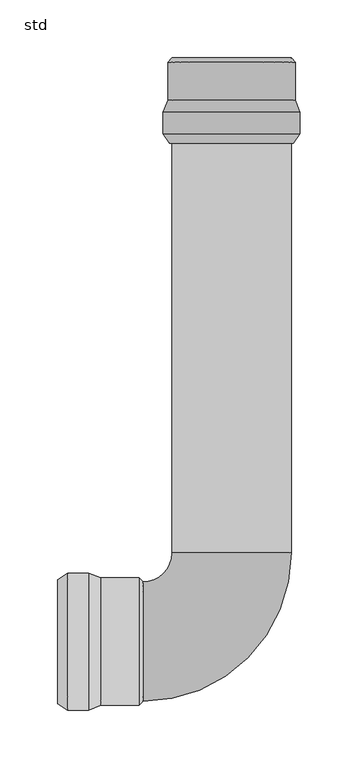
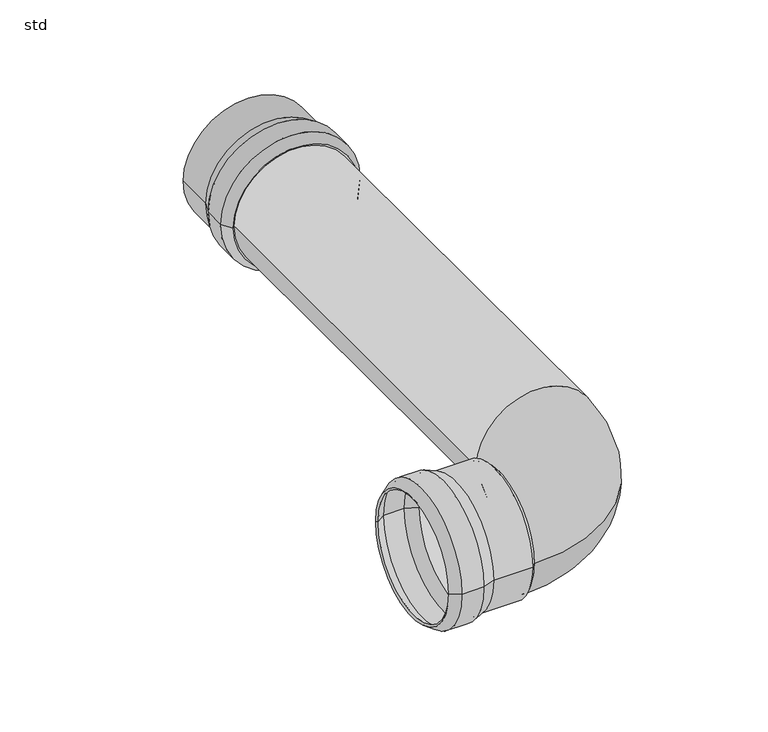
"""IFC4 building model written with IfcOpenShell, lengths in millimetres: pipe fitting geometry, PIF_ST_UN_GM-X optimiserbend 1a push socket_ACO : std."""

from ifc_helpers import new_model, si_unit, point, frame, origin, place, context, project, spatial, polyline, circle_curve, ellipse_curve, trimmed, source, transform, mapped, element, save
from ifc_brep_helpers import plane_surface, cylinder_surface, revolved_surface, advanced_brep


def std_7d5d7c72(model_context):
    return source(origin(), model_context, "Body", "AdvancedBrep", [
        advanced_brep(
        [(-59.0, 456.5, 0.0), (59.0, 456.5, 0.0), (59.0, 438.3, 0.0), (-59.0, 438.3, 0.0), (-55.0, 467.0, 0.0), (55.0, 467.0, 0.0), (53.5, 430.0, 0.0), (-53.5, 430.0, 0.0), (-55.0, 500.0, 0.0), (55.0, 500.0, 0.0), (-51.5, 503.5, 0.0), (51.5, 503.5, 0.0), (-51.5, 500.0, 0.0), (51.5, 500.0, 0.0), (-53.0, 466.6319487, 0.0), (53.0, 466.6319487, 0.0), (53.0, 500.0, 0.0), (-53.0, 500.0, 0.0), (-57.0, 456.1319487, 0.0), (57.0, 456.1319487, 0.0), (-57.0, 438.9025117, 0.0), (57.0, 438.9025117, 0.0), (-51.8328156, 431.1047607, 0.0), (51.8328156, 431.1047607, 0.0)],
        [
            (0, 1, circle_curve(frame((0.0, 456.5, 0.0), z_axis=(0.0, -1.0, 0.0), x_axis=(1.0, 0.0, 0.0)), 59.0)),
            (1, 2),
            (2, 3, circle_curve(frame((0.0, 438.3, 0.0), z_axis=(0.0, 1.0, 0.0), x_axis=(1.0, 0.0, 0.0)), 59.0)),
            (3, 0),
            (1, 0, circle_curve(frame((0.0, 456.5, 0.0), z_axis=(0.0, -1.0, 0.0), x_axis=(1.0, 0.0, 0.0)), 59.0)),
            (3, 2, circle_curve(frame((0.0, 438.3, 0.0), z_axis=(0.0, 1.0, 0.0), x_axis=(1.0, 0.0, 0.0)), 59.0)),
            (4, 5, circle_curve(frame((0.0, 467.0, 0.0), z_axis=(0.0, -1.0, 0.0), x_axis=(1.0, 0.0, 0.0)), 55.0)),
            (5, 1),
            (0, 4),
            (5, 4, circle_curve(frame((0.0, 467.0, 0.0), z_axis=(0.0, -1.0, 0.0), x_axis=(1.0, 0.0, 0.0)), 55.0)),
            (2, 6),
            (6, 7, circle_curve(frame((0.0, 430.0, 0.0), z_axis=(0.0, 1.0, 0.0), x_axis=(1.0, 0.0, 0.0)), 53.5)),
            (7, 3),
            (7, 6, circle_curve(frame((0.0, 430.0, 0.0), z_axis=(0.0, 1.0, 0.0), x_axis=(1.0, 0.0, 0.0)), 53.5)),
            (8, 9, circle_curve(frame((0.0, 500.0, 0.0), z_axis=(0.0, -1.0, 0.0), x_axis=(1.0, 0.0, 0.0)), 55.0)),
            (9, 5),
            (4, 8),
            (9, 8, circle_curve(frame((0.0, 500.0, 0.0), z_axis=(0.0, -1.0, 0.0), x_axis=(1.0, 0.0, 0.0)), 55.0)),
            (10, 11, circle_curve(frame((0.0, 503.5, 0.0), z_axis=(0.0, -1.0, 0.0), x_axis=(1.0, 0.0, 0.0)), 51.5)),
            (11, 9),
            (8, 10),
            (11, 10, circle_curve(frame((0.0, 503.5, 0.0), z_axis=(0.0, -1.0, 0.0), x_axis=(1.0, 0.0, 0.0)), 51.5)),
            (12, 13, circle_curve(frame((0.0, 500.0, 0.0), z_axis=(0.0, -1.0, 0.0), x_axis=(1.0, 0.0, 0.0)), 51.5)),
            (13, 11),
            (10, 12),
            (13, 12, circle_curve(frame((0.0, 500.0, 0.0), z_axis=(0.0, -1.0, 0.0), x_axis=(1.0, 0.0, 0.0)), 51.5)),
            (14, 15, circle_curve(frame((0.0, 466.6319487, 0.0), z_axis=(0.0, -1.0, 0.0), x_axis=(1.0, 0.0, 0.0)), 53.0)),
            (15, 16),
            (16, 17, circle_curve(frame((0.0, 500.0, 0.0), z_axis=(0.0, 1.0, 0.0), x_axis=(1.0, 0.0, 0.0)), 53.0)),
            (17, 14),
            (15, 14, circle_curve(frame((0.0, 466.6319487, 0.0), z_axis=(0.0, -1.0, 0.0), x_axis=(1.0, 0.0, 0.0)), 53.0)),
            (17, 16, circle_curve(frame((0.0, 500.0, 0.0), z_axis=(0.0, 1.0, 0.0), x_axis=(1.0, 0.0, 0.0)), 53.0)),
            (18, 19, circle_curve(frame((0.0, 456.1319487, 0.0), z_axis=(0.0, -1.0, 0.0), x_axis=(1.0, 0.0, 0.0)), 57.0)),
            (19, 15),
            (14, 18),
            (19, 18, circle_curve(frame((0.0, 456.1319487, 0.0), z_axis=(0.0, -1.0, 0.0), x_axis=(1.0, 0.0, 0.0)), 57.0)),
            (20, 21, circle_curve(frame((0.0, 438.9025117, 0.0), z_axis=(0.0, -1.0, 0.0), x_axis=(1.0, 0.0, 0.0)), 57.0)),
            (21, 19),
            (18, 20),
            (21, 20, circle_curve(frame((0.0, 438.9025117, 0.0), z_axis=(0.0, -1.0, 0.0), x_axis=(1.0, 0.0, 0.0)), 57.0)),
            (22, 23, circle_curve(frame((0.0, 431.1047607, 0.0), z_axis=(0.0, -1.0, 0.0), x_axis=(1.0, 0.0, 0.0)), 51.8328156)),
            (23, 21),
            (20, 22),
            (23, 22, circle_curve(frame((0.0, 431.1047607, 0.0), z_axis=(0.0, -1.0, 0.0), x_axis=(1.0, 0.0, 0.0)), 51.8328156)),
            (6, 23),
            (22, 7),
            (16, 13),
            (12, 17),
        ],
        [
            cylinder_surface(frame((0.0, 433.3555883, 0.0), z_axis=(0.0, 1.0, 0.0), x_axis=(1.0, 0.0, 0.0)), 59.0),
            revolved_surface(polyline([(59.0, 456.5, 0.0), (55.0, 467.0, 0.0)]), (0.0, 433.3555883, 0.0), (0.0, 1.0, 0.0)),
            revolved_surface(polyline([(53.5, 430.0, 0.0), (59.0, 438.3, 0.0)]), (0.0, 433.3555883, 0.0), (0.0, 1.0, 0.0)),
            cylinder_surface(frame((0.0, 433.3555883, 0.0), z_axis=(0.0, 1.0, 0.0), x_axis=(1.0, 0.0, 0.0)), 55.0),
            revolved_surface(polyline([(55.0, 500.0, 0.0), (51.5, 503.5, 0.0)]), (0.0, 433.3555883, 0.0), (0.0, 1.0, 0.0)),
            revolved_surface(polyline([(51.5, 503.5, 0.0), (51.5, 500.0, 0.0)]), (0.0, 433.3555883, 0.0), (0.0, 1.0, 0.0)),
            revolved_surface(polyline([(53.0, 500.0, 0.0), (53.0, 466.6319487, 0.0)]), (0.0, 433.3555883, 0.0), (0.0, 1.0, 0.0)),
            revolved_surface(polyline([(53.0, 466.6319487, 0.0), (57.0, 456.1319487, 0.0)]), (0.0, 433.3555883, 0.0), (0.0, 1.0, 0.0)),
            revolved_surface(polyline([(57.0, 456.1319487, 0.0), (57.0, 438.9025117, 0.0)]), (0.0, 433.3555883, 0.0), (0.0, 1.0, 0.0)),
            revolved_surface(polyline([(57.0, 438.9025117, 0.0), (51.8328156, 431.1047607, 0.0)]), (0.0, 433.3555883, 0.0), (0.0, 1.0, 0.0)),
            revolved_surface(polyline([(51.8328156, 431.1047607, 0.0), (53.5, 430.0, 0.0)]), (0.0, 433.3555883, 0.0), (0.0, 1.0, 0.0)),
            plane_surface(frame((0.0, 500.0, 0.0), z_axis=(0.0, -1.0, 0.0), x_axis=(1.0, 0.0, 0.0))),
        ],
        [
            (0, [[1, 2, 3, 4]]),
            (0, [[5, -4, 6, -2]]),
            (1, [[7, 8, -1, 9]]),
            (1, [[10, -9, -5, -8]]),
            (2, [[-3, 11, 12, 13]]),
            (2, [[-6, -13, 14, -11]]),
            (3, [[15, 16, -7, 17]]),
            (3, [[18, -17, -10, -16]]),
            (4, [[19, 20, -15, 21]]),
            (4, [[22, -21, -18, -20]]),
            (5, [[23, 24, -19, 25]]),
            (5, [[26, -25, -22, -24]]),
            (6, [[27, 28, 29, 30]]),
            (6, [[31, -30, 32, -28]]),
            (7, [[33, 34, -27, 35]]),
            (7, [[36, -35, -31, -34]]),
            (8, [[37, 38, -33, 39]]),
            (8, [[40, -39, -36, -38]]),
            (9, [[41, 42, -37, 43]]),
            (9, [[44, -43, -40, -42]]),
            (10, [[-12, 45, -41, 46]]),
            (10, [[-14, -46, -44, -45]]),
            (11, [[-29, 47, -23, 48]]),
            (11, [[-32, -48, -26, -47]]),
        ],
    ),
        advanced_brep(
        [(-123.5, 59.0, 0.0), (-123.5, -59.0, 0.0), (-141.7, -59.0, 0.0), (-141.7, 59.0, 0.0), (-113.0, 55.0, 0.0), (-113.0, -55.0, 0.0), (-150.0, -53.5, 0.0), (-150.0, 53.5, 0.0), (-80.0, 55.0, 0.0), (-80.0, -55.0, 0.0), (-76.5, 51.5, 0.0), (-76.5, -51.5, 0.0), (-80.0, 51.5, 0.0), (-80.0, -51.5, 0.0), (-113.3680513, 53.0, 0.0), (-113.3680513, -53.0, 0.0), (-80.0, -53.0, 0.0), (-80.0, 53.0, 0.0), (-123.8680513, 57.0, 0.0), (-123.8680513, -57.0, 0.0), (-141.0974883, 57.0, 0.0), (-141.0974883, -57.0, 0.0), (-148.8952393, 51.8328156, 0.0), (-148.8952393, -51.8328156, 0.0)],
        [
            (0, 1, circle_curve(frame((-123.5, 0.0, 0.0), z_axis=(-1.0, 0.0, 0.0), x_axis=(0.0, -1.0, 0.0)), 59.0)),
            (1, 2),
            (2, 3, circle_curve(frame((-141.7, 0.0, 0.0), z_axis=(1.0, 0.0, 0.0), x_axis=(0.0, -1.0, 0.0)), 59.0)),
            (3, 0),
            (1, 0, circle_curve(frame((-123.5, 0.0, 0.0), z_axis=(-1.0, 0.0, 0.0), x_axis=(0.0, -1.0, 0.0)), 59.0)),
            (3, 2, circle_curve(frame((-141.7, 0.0, 0.0), z_axis=(1.0, 0.0, 0.0), x_axis=(0.0, -1.0, 0.0)), 59.0)),
            (4, 5, circle_curve(frame((-113.0, 0.0, 0.0), z_axis=(-1.0, 0.0, 0.0), x_axis=(0.0, -1.0, 0.0)), 55.0)),
            (5, 1),
            (0, 4),
            (5, 4, circle_curve(frame((-113.0, 0.0, 0.0), z_axis=(-1.0, 0.0, 0.0), x_axis=(0.0, -1.0, 0.0)), 55.0)),
            (2, 6),
            (6, 7, circle_curve(frame((-150.0, 0.0, 0.0), z_axis=(1.0, 0.0, 0.0), x_axis=(0.0, -1.0, 0.0)), 53.5)),
            (7, 3),
            (7, 6, circle_curve(frame((-150.0, 0.0, 0.0), z_axis=(1.0, 0.0, 0.0), x_axis=(0.0, -1.0, 0.0)), 53.5)),
            (8, 9, circle_curve(frame((-80.0, 0.0, 0.0), z_axis=(-1.0, 0.0, 0.0), x_axis=(0.0, -1.0, 0.0)), 55.0)),
            (9, 5),
            (4, 8),
            (9, 8, circle_curve(frame((-80.0, 0.0, 0.0), z_axis=(-1.0, 0.0, 0.0), x_axis=(0.0, -1.0, 0.0)), 55.0)),
            (10, 11, circle_curve(frame((-76.5, 0.0, 0.0), z_axis=(-1.0, 0.0, 0.0), x_axis=(0.0, -1.0, 0.0)), 51.5)),
            (11, 9),
            (8, 10),
            (11, 10, circle_curve(frame((-76.5, 0.0, 0.0), z_axis=(-1.0, 0.0, 0.0), x_axis=(0.0, -1.0, 0.0)), 51.5)),
            (12, 13, circle_curve(frame((-80.0, 0.0, 0.0), z_axis=(-1.0, 0.0, 0.0), x_axis=(0.0, -1.0, 0.0)), 51.5)),
            (13, 11),
            (10, 12),
            (13, 12, circle_curve(frame((-80.0, 0.0, 0.0), z_axis=(-1.0, 0.0, 0.0), x_axis=(0.0, -1.0, 0.0)), 51.5)),
            (14, 15, circle_curve(frame((-113.3680513, 0.0, 0.0), z_axis=(-1.0, 0.0, 0.0), x_axis=(0.0, -1.0, 0.0)), 53.0)),
            (15, 16),
            (16, 17, circle_curve(frame((-80.0, 0.0, 0.0), z_axis=(1.0, 0.0, 0.0), x_axis=(0.0, -1.0, 0.0)), 53.0)),
            (17, 14),
            (15, 14, circle_curve(frame((-113.3680513, 0.0, 0.0), z_axis=(-1.0, 0.0, 0.0), x_axis=(0.0, -1.0, 0.0)), 53.0)),
            (17, 16, circle_curve(frame((-80.0, 0.0, 0.0), z_axis=(1.0, 0.0, 0.0), x_axis=(0.0, -1.0, 0.0)), 53.0)),
            (18, 19, circle_curve(frame((-123.8680513, 0.0, 0.0), z_axis=(-1.0, 0.0, 0.0), x_axis=(0.0, -1.0, 0.0)), 57.0)),
            (19, 15),
            (14, 18),
            (19, 18, circle_curve(frame((-123.8680513, 0.0, 0.0), z_axis=(-1.0, 0.0, 0.0), x_axis=(0.0, -1.0, 0.0)), 57.0)),
            (20, 21, circle_curve(frame((-141.0974883, 0.0, 0.0), z_axis=(-1.0, 0.0, 0.0), x_axis=(0.0, -1.0, 0.0)), 57.0)),
            (21, 19),
            (18, 20),
            (21, 20, circle_curve(frame((-141.0974883, 0.0, 0.0), z_axis=(-1.0, 0.0, 0.0), x_axis=(0.0, -1.0, 0.0)), 57.0)),
            (22, 23, circle_curve(frame((-148.8952393, 0.0, 0.0), z_axis=(-1.0, 0.0, 0.0), x_axis=(0.0, -1.0, 0.0)), 51.8328156)),
            (23, 21),
            (20, 22),
            (23, 22, circle_curve(frame((-148.8952393, 0.0, 0.0), z_axis=(-1.0, 0.0, 0.0), x_axis=(0.0, -1.0, 0.0)), 51.8328156)),
            (6, 23),
            (22, 7),
            (16, 13),
            (12, 17),
        ],
        [
            cylinder_surface(frame((-146.6444117, 0.0, 0.0), z_axis=(1.0, 0.0, 0.0), x_axis=(0.0, -1.0, 0.0)), 59.0),
            revolved_surface(polyline([(-123.5, -59.0, 0.0), (-113.0, -55.0, 0.0)]), (-146.6444117, 0.0, 0.0), (1.0, 0.0, 0.0)),
            revolved_surface(polyline([(-150.0, -53.5, 0.0), (-141.7, -59.0, 0.0)]), (-146.6444117, 0.0, 0.0), (1.0, 0.0, 0.0)),
            cylinder_surface(frame((-146.6444117, 0.0, 0.0), z_axis=(1.0, 0.0, 0.0), x_axis=(0.0, -1.0, 0.0)), 55.0),
            revolved_surface(polyline([(-80.0, -55.0, 0.0), (-76.5, -51.5, 0.0)]), (-146.6444117, 0.0, 0.0), (1.0, 0.0, 0.0)),
            revolved_surface(polyline([(-76.5, -51.5, 0.0), (-80.0, -51.5, 0.0)]), (-146.6444117, 0.0, 0.0), (1.0, 0.0, 0.0)),
            revolved_surface(polyline([(-80.0, -53.0, 0.0), (-113.3680513, -53.0, 0.0)]), (-146.6444117, 0.0, 0.0), (1.0, 0.0, 0.0)),
            revolved_surface(polyline([(-113.3680513, -53.0, 0.0), (-123.8680513, -57.0, 0.0)]), (-146.6444117, 0.0, 0.0), (1.0, 0.0, 0.0)),
            revolved_surface(polyline([(-123.8680513, -57.0, 0.0), (-141.0974883, -57.0, 0.0)]), (-146.6444117, 0.0, 0.0), (1.0, 0.0, 0.0)),
            revolved_surface(polyline([(-141.0974883, -57.0, 0.0), (-148.8952393, -51.8328156, 0.0)]), (-146.6444117, 0.0, 0.0), (1.0, 0.0, 0.0)),
            revolved_surface(polyline([(-148.8952393, -51.8328156, 0.0), (-150.0, -53.5, 0.0)]), (-146.6444117, 0.0, 0.0), (1.0, 0.0, 0.0)),
            plane_surface(frame((-80.0, 0.0, 0.0), z_axis=(-1.0, 0.0, 0.0), x_axis=(0.0, -1.0, 0.0))),
        ],
        [
            (0, [[1, 2, 3, 4]]),
            (0, [[5, -4, 6, -2]]),
            (1, [[7, 8, -1, 9]]),
            (1, [[10, -9, -5, -8]]),
            (2, [[-3, 11, 12, 13]]),
            (2, [[-6, -13, 14, -11]]),
            (3, [[15, 16, -7, 17]]),
            (3, [[18, -17, -10, -16]]),
            (4, [[19, 20, -15, 21]]),
            (4, [[22, -21, -18, -20]]),
            (5, [[23, 24, -19, 25]]),
            (5, [[26, -25, -22, -24]]),
            (6, [[27, 28, 29, 30]]),
            (6, [[31, -30, 32, -28]]),
            (7, [[33, 34, -27, 35]]),
            (7, [[36, -35, -31, -34]]),
            (8, [[37, 38, -33, 39]]),
            (8, [[40, -39, -36, -38]]),
            (9, [[41, 42, -37, 43]]),
            (9, [[44, -43, -40, -42]]),
            (10, [[-12, 45, -41, 46]]),
            (10, [[-14, -46, -44, -45]]),
            (11, [[-29, 47, -23, 48]]),
            (11, [[-32, -48, -26, -47]]),
        ],
    ),
        advanced_brep(
        [(-51.5, 76.5, 0.0), (-76.5, 51.5, 0.0), (-76.5, -51.5, 0.0), (51.5, 76.5, 0.0), (-80.0, -51.5, 0.0), (-80.0, 51.5, 0.0), (-51.5, 500.0, 0.0), (51.5, 500.0, 0.0)],
        [
            (0, 1, circle_curve(frame((-76.5, 76.5, 0.0), z_axis=(0.0, 0.0, -1.0), x_axis=(0.0, -1.0, 0.0)), 25.0)),
            (1, 2, circle_curve(frame((-76.5, 0.0, 0.0), z_axis=(1.0, 0.0, 0.0), x_axis=(0.0, 1.0, 0.0)), 51.5)),
            (2, 3, circle_curve(frame((-76.5, 76.5, 0.0), z_axis=(0.0, 0.0, 1.0), x_axis=(0.0, -1.0, 0.0)), 128.0)),
            (3, 0, circle_curve(frame((0.0, 76.5, 0.0), z_axis=(0.0, -1.0, 0.0), x_axis=(-1.0, 0.0, 0.0)), 51.5)),
            (0, 3, circle_curve(frame((0.0, 76.5, 0.0), z_axis=(0.0, -1.0, 0.0), x_axis=(-1.0, 0.0, 0.0)), 51.5)),
            (2, 1, circle_curve(frame((-76.5, 0.0, 0.0), z_axis=(1.0, 0.0, 0.0), x_axis=(0.0, 1.0, 0.0)), 51.5)),
            (4, 5, circle_curve(frame((-80.0, 0.0, 0.0), z_axis=(-1.0, 0.0, 0.0), x_axis=(0.0, 0.0, 1.0)), 51.5)),
            (5, 4, circle_curve(frame((-80.0, 0.0, 0.0), z_axis=(-1.0, 0.0, 0.0), x_axis=(0.0, 0.0, -1.0)), 51.5)),
            (5, 1),
            (2, 4),
            (6, 7, circle_curve(frame((0.0, 500.0, 0.0), z_axis=(0.0, 1.0, 0.0), x_axis=(0.0, 0.0, 1.0)), 51.5)),
            (7, 6, circle_curve(frame((0.0, 500.0, 0.0), z_axis=(0.0, 1.0, 0.0), x_axis=(0.0, 0.0, -1.0)), 51.5)),
            (7, 3),
            (0, 6),
        ],
        [
            revolved_surface(trimmed(ellipse_curve(frame((-76.5, 0.0, 0.0), z_axis=(-1.0, 0.0, 0.0), x_axis=(0.0, 1.0, 0.0)), 51.5, 51.5), [point((-76.5, -51.5, 0.0))], [point((-76.5, 51.5, 0.0))], True, "CARTESIAN"), (-76.5, 76.5, 0.0), (0.0, 0.0, 1.0)),
            revolved_surface(trimmed(ellipse_curve(frame((-76.5, 0.0, 0.0), z_axis=(-1.0, 0.0, 0.0), x_axis=(0.0, 1.0, 0.0)), 51.5, 51.5), [point((-76.5, 51.5, 0.0))], [point((-76.5, -51.5, 0.0))], True, "CARTESIAN"), (-76.5, 76.5, 0.0), (0.0, 0.0, 1.0)),
            plane_surface(frame((-80.0, 0.0, 0.0), z_axis=(-1.0, 0.0, 0.0), x_axis=(0.0, 0.0, -1.0))),
            cylinder_surface(frame((-80.0, 0.0, 0.0), z_axis=(1.0, 0.0, 0.0), x_axis=(0.0, 0.0, -1.0)), 51.5),
            cylinder_surface(frame((-80.0, 0.0, 0.0), z_axis=(1.0, 0.0, 0.0), x_axis=(0.0, 0.0, 1.0)), 51.5),
            plane_surface(frame((0.0, 500.0, 0.0), z_axis=(0.0, 1.0, 0.0), x_axis=(0.0, 0.0, -1.0))),
            cylinder_surface(frame((0.0, 500.0, 0.0), z_axis=(0.0, -1.0, 0.0), x_axis=(0.0, 0.0, -1.0)), 51.5),
            cylinder_surface(frame((0.0, 500.0, 0.0), z_axis=(0.0, -1.0, 0.0), x_axis=(0.0, 0.0, 1.0)), 51.5),
        ],
        [
            (0, [[1, 2, 3, 4]]),
            (1, [[-1, 5, -3, 6]]),
            (2, [[7, 8]]),
            (3, [[-8, 9, -6, 10]]),
            (4, [[-7, -10, -2, -9]]),
            (5, [[11, 12]]),
            (6, [[-12, 13, -5, 14]]),
            (7, [[-11, -14, -4, -13]]),
        ],
    ),
    ])


if __name__ == "__main__":
    model = new_model("IFC4")
    model_context = context("Model", 3, world=origin())
    ifc_project = project(units=[si_unit("LENGTHUNIT", "METRE", prefix="MILLI")], contexts=[model_context])
    site = spatial("IfcSite", under=ifc_project)
    building = spatial("IfcBuilding", under=site)
    placement = place(None, origin())
    std_shape = std_7d5d7c72(model_context)
    element("IfcPipeFitting", 1, ObjectType="PIF_ST_UN_GM-X optimiserbend 1a push socket_ACO : std", at=placement, inside=building, context=model_context, shape_type="MappedRepresentation", body=[
        mapped(std_shape, transform((0.0, 0.0, 0.0), x_axis=(1.0, 0.0, 0.0), y_axis=(0.0, 1.0, 0.0), z_axis=(0.0, 0.0, 1.0))),
    ])
    save(model, "model.ifc")
